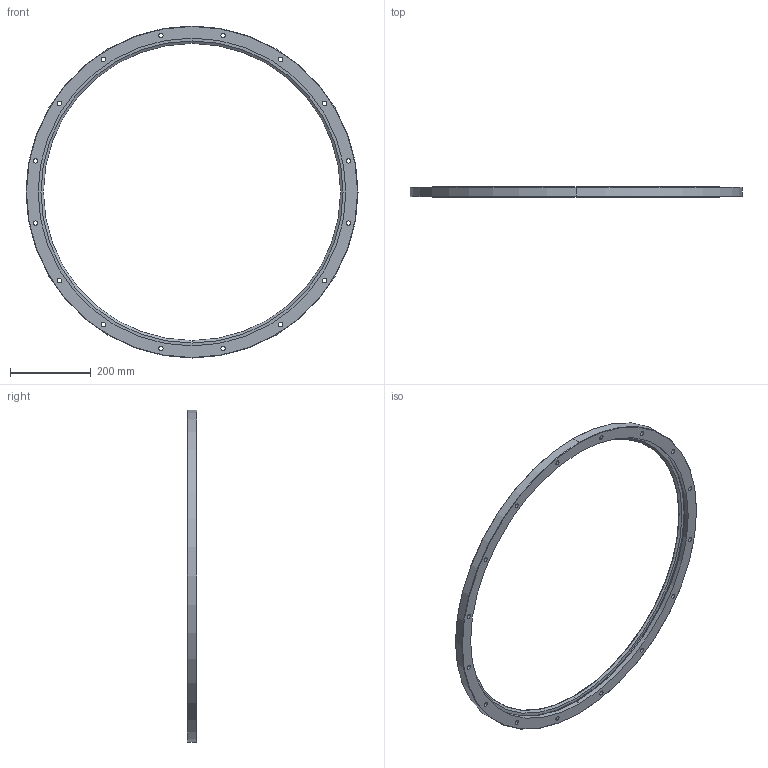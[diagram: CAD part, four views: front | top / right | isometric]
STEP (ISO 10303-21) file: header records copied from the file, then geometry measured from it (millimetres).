
FILE_DESCRIPTION(('STEP AP203'),'1');
FILE_NAME('ril_820_r360.stp','2020-07-11T16:13:15',('TraceParts'),('TraceParts S.A.'),'Spatial InterOp 3D',' ',' ');
FILE_SCHEMA(('CONFIG_CONTROL_DESIGN'));
Length unit declared in the file: millimetre
Products named in the file (1): 1
Bounding box: 820 x 24 x 820 mm (x, y, z)
Volume: 1932691.3 mm3; surface area: 328279.2 mm2
Topology: 1 solids, 1 shells, 102 faces, 236 edges, 154 vertices
Faces by surface type: cylinder 70, plane 20, cone 8, torus 4
Entity records: 3090 total; most frequent: DIRECTION 600, CARTESIAN_POINT 493, ORIENTED_EDGE 472, AXIS2_PLACEMENT_3D 261, EDGE_CURVE 236, CIRCLE 158, EDGE_LOOP 154, VERTEX_POINT 154
